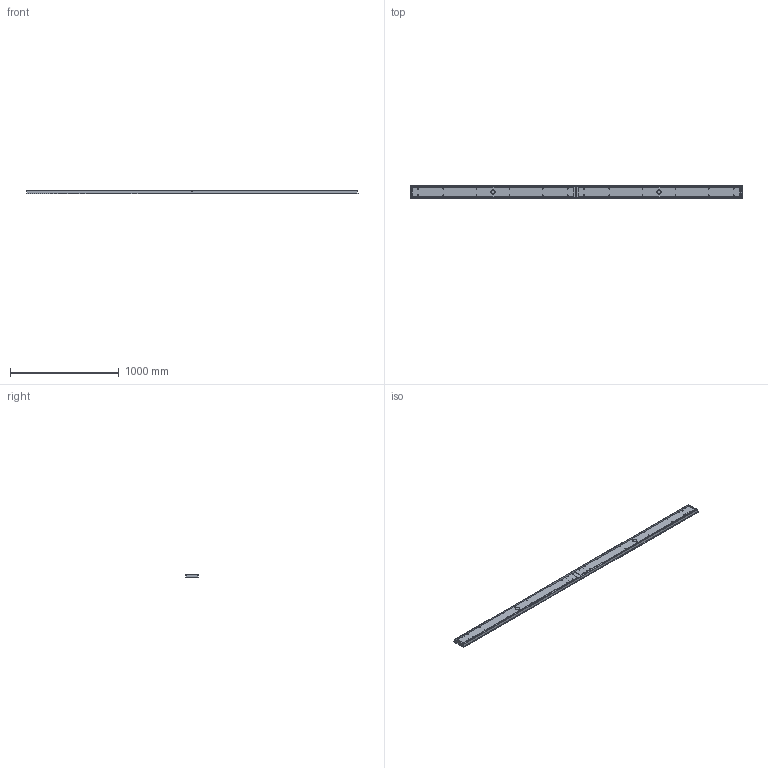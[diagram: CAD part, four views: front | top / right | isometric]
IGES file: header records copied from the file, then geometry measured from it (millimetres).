
Global section: file name: /Users/danielszollosi/Documents/SkLO/DEVELOPMENT/LIGHT 2024/MULTIPENDANT CANOPIES/Linear Multipendant Canopies/SkLO_Linear_Canopy_10'_MCL10/3D/SkLO_Linear_Canopy_10'_MCL010_3D.igs; native system: Rhinoceros ( Sep 24 2023 ); preprocessor: Trout Lake IGES 012 Sep 24 2023; date: 241018.153429; units: millimetre
Bounding box: 3050 x 127 x 28.3 mm (x, y, z)
Surface area: 1608968.8 mm2 (no closed solid volume)
Topology: 0 solids, 0 shells, 344 faces, 2191 edges, 2030 vertices
Faces by surface type: bspline 344
